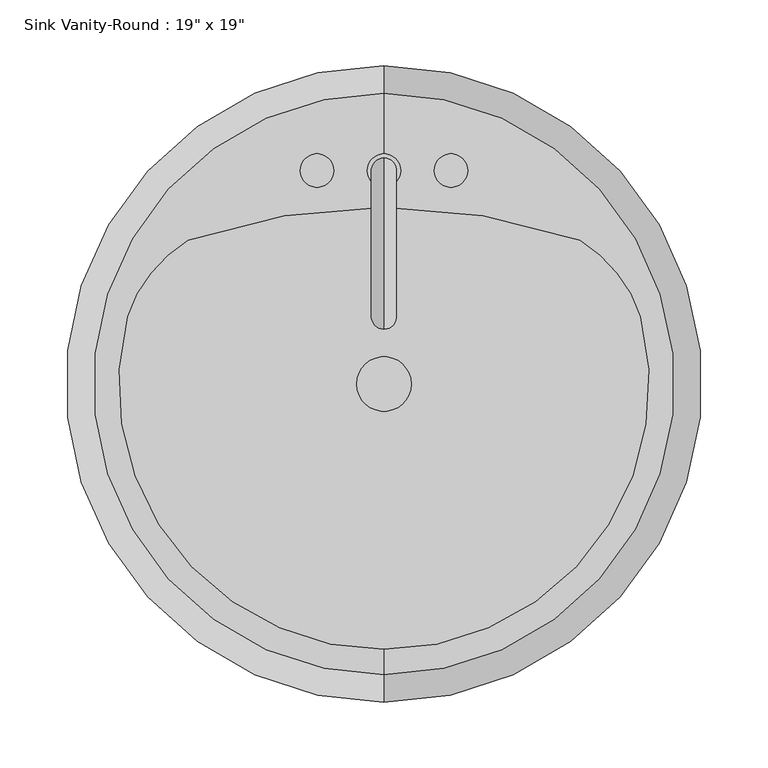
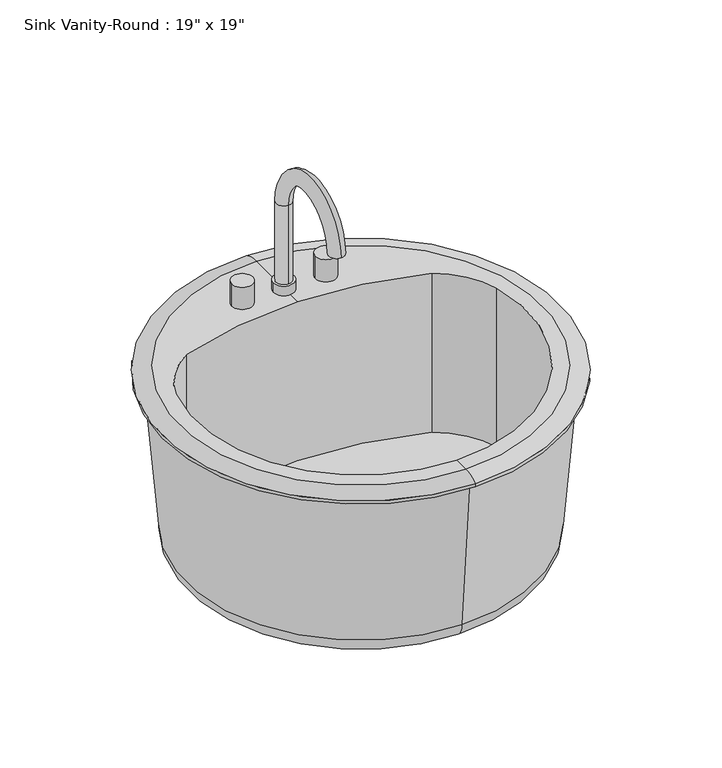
"""IFC4 building model written with IfcOpenShell, lengths in millimetres: flow terminal geometry."""

from ifc_helpers import new_model, si_unit, point, frame, frame_2d, origin, place, context, project, spatial, polyline, circle_curve, ellipse_curve, trimmed, segment, composite_curve, outline, extrude, source, transform, mapped, element, save
from ifc_brep_helpers import plane_surface, cylinder_surface, revolved_surface, advanced_brep


def flow_terminal_5184717d(model_context):
    return source(origin(), model_context, "Body", "SolidModel", [
        advanced_brep(
        [(96.6517406, 237.5677185, 796.925), (96.6517406, 256.6177185, 796.925), (96.6517406, 237.5677185, 909.6375), (96.6517406, 256.6177185, 909.6375), (96.6517406, 145.7775038, 909.6375), (96.6517406, 126.7275038, 909.6375)],
        [
            (0, 1, circle_curve(frame((96.6517406, 247.0927185, 796.925), z_axis=(0.0, 0.0, -1.0), x_axis=(0.0, 1.0, 0.0)), 9.525)),
            (1, 0, circle_curve(frame((96.6517406, 247.0927185, 796.925), z_axis=(0.0, 0.0, -1.0), x_axis=(0.0, 1.0, 0.0)), 9.525)),
            (0, 2),
            (2, 3, circle_curve(frame((96.6517406, 247.0927185, 909.6375), z_axis=(0.0, 0.0, -1.0), x_axis=(0.0, 1.0, 0.0)), 9.525)),
            (3, 1),
            (3, 2, circle_curve(frame((96.6517406, 247.0927185, 909.6375), z_axis=(0.0, 0.0, -1.0), x_axis=(0.0, 1.0, 0.0)), 9.525)),
            (4, 5, circle_curve(frame((96.6517406, 136.2525038, 909.6375), z_axis=(0.0, 0.0, -1.0), x_axis=(0.0, -1.0, 0.0)), 9.525)),
            (5, 4, circle_curve(frame((96.6517406, 136.2525038, 909.6375), z_axis=(0.0, 0.0, -1.0), x_axis=(0.0, -1.0, 0.0)), 9.525)),
            (5, 3, circle_curve(frame((96.6517406, 191.6726112, 909.6375), z_axis=(-1.0, 0.0, 0.0), x_axis=(0.0, 1.0, 0.0)), 64.9451073)),
            (2, 4, circle_curve(frame((96.6517406, 191.6726112, 909.6375), z_axis=(1.0, 0.0, 0.0), x_axis=(0.0, 1.0, 0.0)), 45.8951073)),
        ],
        [
            plane_surface(frame((96.6517406, 237.5677185, 796.925), z_axis=(0.0, 0.0, -1.0), x_axis=(1.0, 0.0, 0.0))),
            cylinder_surface(frame((96.6517406, 247.0927185, 796.925), z_axis=(0.0, 0.0, -1.0), x_axis=(0.0, 1.0, 0.0)), 9.525),
            plane_surface(frame((96.6517406, 191.6726112, 909.6375), z_axis=(0.0, 0.0, -1.0), x_axis=(0.0, -1.0, 0.0))),
            revolved_surface(trimmed(ellipse_curve(frame((96.6517406, 247.0927185, 909.6375), z_axis=(0.0, 0.0, -1.0), x_axis=(0.0, 1.0, 0.0)), 9.525, 9.525), [point((96.6517406, 237.5677185, 909.6375))], [point((96.6517406, 256.6177185, 909.6375))], True, "CARTESIAN"), (96.6517406, 191.6726112, 909.6375), (1.0, 0.0, 0.0)),
            revolved_surface(trimmed(ellipse_curve(frame((96.6517406, 247.0927185, 909.6375), z_axis=(0.0, 0.0, -1.0), x_axis=(0.0, 1.0, 0.0)), 9.525, 9.525), [point((96.6517406, 256.6177185, 909.6375))], [point((96.6517406, 237.5677185, 909.6375))], True, "CARTESIAN"), (96.6517406, 191.6726112, 909.6375), (1.0, 0.0, 0.0)),
        ],
        [
            (0, [[1, 2]]),
            (1, [[-1, 3, 4, 5]]),
            (1, [[-2, -5, 6, -3]]),
            (2, [[7, 8]]),
            (3, [[9, -4, 10, -8]]),
            (4, [[-10, -6, -9, -7]]),
        ],
    ),
        extrude(outline(composite_curve([segment(trimmed(circle_curve(frame_2d((96.6517406, 247.0927185)), 12.7), [point((83.9517406, 247.0927185))], [point((109.3517406, 247.0927185))], False, "CARTESIAN"), True, "CONTINUOUS"), segment(trimmed(circle_curve(frame_2d((96.6517406, 247.0927185)), 12.7), [point((109.3517406, 247.0927185))], [point((83.9517406, 247.0927185))], False, "CARTESIAN"), True, "CONTINUOUS")], self_intersect=False)), frame((0.0, 0.0, 796.925), z_axis=(0.0, 0.0, 1.0), x_axis=(1.0, 0.0, 0.0)), (0.0, 0.0, 1.0), 12.2352909),
        extrude(outline(composite_curve([segment(trimmed(circle_curve(frame_2d((45.8517406, 247.0927185)), 12.7), [point((33.1517406, 247.0927185))], [point((58.5517406, 247.0927185))], False, "CARTESIAN"), True, "CONTINUOUS"), segment(trimmed(circle_curve(frame_2d((45.8517406, 247.0927185)), 12.7), [point((58.5517406, 247.0927185))], [point((33.1517406, 247.0927185))], False, "CARTESIAN"), True, "CONTINUOUS")], self_intersect=False)), frame((0.0, 0.0, 796.925), z_axis=(0.0, 0.0, 1.0), x_axis=(1.0, 0.0, 0.0)), (0.0, 0.0, 1.0), 28.575),
        extrude(outline(composite_curve([segment(trimmed(circle_curve(frame_2d((147.4517406, 247.0927185)), 12.7), [point((134.7517406, 247.0927185))], [point((160.1517406, 247.0927185))], False, "CARTESIAN"), True, "CONTINUOUS"), segment(trimmed(circle_curve(frame_2d((147.4517406, 247.0927185)), 12.7), [point((160.1517406, 247.0927185))], [point((134.7517406, 247.0927185))], False, "CARTESIAN"), True, "CONTINUOUS")], self_intersect=False)), frame((0.0, 0.0, 796.925), z_axis=(0.0, 0.0, 1.0), x_axis=(1.0, 0.0, 0.0)), (0.0, 0.0, 1.0), 28.575),
        extrude(outline(composite_curve([segment(trimmed(circle_curve(frame_2d((96.6517406, 85.1677185)), 20.6375), [point((76.0142406, 85.1677185))], [point((117.2892406, 85.1677185))], False, "CARTESIAN"), True, "CONTINUOUS"), segment(trimmed(circle_curve(frame_2d((96.6517406, 85.1677185)), 20.6375), [point((117.2892406, 85.1677185))], [point((76.0142406, 85.1677185))], False, "CARTESIAN"), True, "CONTINUOUS")], self_intersect=False)), frame((0.0, 0.0, 571.5), z_axis=(0.0, 0.0, 1.0), x_axis=(1.0, 0.0, 0.0)), (0.0, 0.0, 1.0), 21.1842611),
        advanced_brep(
        [(96.6517406, -135.3870093, 796.925), (96.6517406, 305.7224463, 796.925), (96.6517406, 326.4677185, 791.36875), (96.6517406, -156.1322815, 791.36875), (96.6517406, -116.2405705, 796.925), (-98.1703414, 136.2525038, 796.925), (-52.1534933, 194.0861398, 796.925), (96.6517406, 219.2662048, 796.925), (245.4569744, 194.0861398, 796.925), (291.4738225, 136.2525038, 796.925), (96.6517406, -107.1264028, 571.5), (96.6517406, 277.4618398, 571.5), (96.6517406, 85.1677185, 571.5), (96.6517406, -127.6827361, 592.6842611), (96.6517406, 298.0181731, 592.6842611), (96.6517406, -144.2260315, 787.4), (96.6517406, 314.5614685, 787.4), (96.6517406, -156.1322815, 787.4), (96.6517406, 326.4677185, 787.4), (245.4569744, 194.0861398, 592.6842611), (-52.1534933, 194.0861398, 592.6842611), (-98.1703414, 136.2525038, 592.6842611), (291.4738225, 136.2525038, 592.6842611)],
        [
            (0, 1, circle_curve(frame((96.6517406, 85.1677185, 796.925), z_axis=(0.0, 0.0, -1.0), x_axis=(0.0, 1.0, 0.0)), 220.5547278)),
            (1, 2, circle_curve(frame((96.6517406, 309.4374616, 769.289434), z_axis=(-1.0, 0.0, 0.0), x_axis=(0.0, 1.0, 0.0)), 27.8841505)),
            (2, 3, circle_curve(frame((96.6517406, 85.1677185, 791.36875), z_axis=(0.0, 0.0, 1.0), x_axis=(0.0, 1.0, 0.0)), 241.3)),
            (3, 0, circle_curve(frame((96.6517406, -139.1020246, 769.289434), z_axis=(-1.0, 0.0, 0.0), x_axis=(0.0, -1.0, 0.0)), 27.8841505)),
            (1, 0, circle_curve(frame((96.6517406, 85.1677185, 796.925), z_axis=(0.0, 0.0, -1.0), x_axis=(0.0, 1.0, 0.0)), 220.5547278)),
            (3, 2, circle_curve(frame((96.6517406, 85.1677185, 791.36875), z_axis=(0.0, 0.0, 1.0), x_axis=(0.0, 1.0, 0.0)), 241.3)),
            (0, 4),
            (4, 5, circle_curve(frame((96.6517406, 85.1677185, 796.925), z_axis=(0.0, 0.0, -1.0), x_axis=(1.0, 0.0, 0.0)), 201.408289)),
            (5, 6, circle_curve(frame((1.3689689, 104.2755165, 796.925), z_axis=(0.0, 0.0, -1.0), x_axis=(1.0, 0.0, 0.0)), 104.5495194)),
            (6, 7, circle_curve(frame((96.6517406, -233.0168462, 796.925), z_axis=(0.0, 0.0, -1.0), x_axis=(1.0, 0.0, 0.0)), 452.283051)),
            (7, 1),
            (7, 8, circle_curve(frame((96.6517406, -233.0168462, 796.925), z_axis=(0.0, 0.0, -1.0), x_axis=(1.0, 0.0, 0.0)), 452.283051)),
            (8, 9, circle_curve(frame((191.9345122, 104.2755165, 796.925), z_axis=(0.0, 0.0, -1.0), x_axis=(1.0, 0.0, 0.0)), 104.5495194)),
            (9, 4, circle_curve(frame((96.6517406, 85.1677185, 796.925), z_axis=(0.0, 0.0, -1.0), x_axis=(1.0, 0.0, 0.0)), 201.408289)),
            (10, 11, circle_curve(frame((96.6517406, 85.1677185, 571.5), z_axis=(0.0, 0.0, -1.0), x_axis=(0.0, 1.0, 0.0)), 192.2941213)),
            (11, 12),
            (12, 10),
            (11, 10, circle_curve(frame((96.6517406, 85.1677185, 571.5), z_axis=(0.0, 0.0, -1.0), x_axis=(0.0, 1.0, 0.0)), 192.2941213)),
            (10, 13, circle_curve(frame((96.6517406, -107.1264028, 592.0656396), z_axis=(-1.0, 0.0, 0.0), x_axis=(0.0, -1.0, 0.0)), 20.5656396)),
            (13, 14, circle_curve(frame((96.6517406, 85.1677185, 592.6842611), z_axis=(0.0, 0.0, -1.0), x_axis=(0.0, 1.0, 0.0)), 212.8504546)),
            (14, 11, circle_curve(frame((96.6517406, 277.4618398, 592.0656396), z_axis=(-1.0, 0.0, 0.0), x_axis=(0.0, 1.0, 0.0)), 20.5656396)),
            (14, 13, circle_curve(frame((96.6517406, 85.1677185, 592.6842611), z_axis=(0.0, 0.0, -1.0), x_axis=(0.0, 1.0, 0.0)), 212.8504546)),
            (13, 15),
            (15, 16, circle_curve(frame((96.6517406, 85.1677185, 787.4), z_axis=(0.0, 0.0, -1.0), x_axis=(0.0, 1.0, 0.0)), 229.39375)),
            (16, 14),
            (16, 15, circle_curve(frame((96.6517406, 85.1677185, 787.4), z_axis=(0.0, 0.0, -1.0), x_axis=(0.0, 1.0, 0.0)), 229.39375)),
            (15, 17),
            (17, 18, circle_curve(frame((96.6517406, 85.1677185, 787.4), z_axis=(0.0, 0.0, -1.0), x_axis=(0.0, 1.0, 0.0)), 241.3)),
            (18, 16),
            (18, 17, circle_curve(frame((96.6517406, 85.1677185, 787.4), z_axis=(0.0, 0.0, -1.0), x_axis=(0.0, 1.0, 0.0)), 241.3)),
            (2, 18),
            (17, 3),
            (19, 20, circle_curve(frame((96.6517406, -233.0168462, 592.6842611), z_axis=(0.0, 0.0, 1.0), x_axis=(1.0, 0.0, 0.0)), 452.283051)),
            (20, 21, circle_curve(frame((1.3689689, 104.2755165, 592.6842611), z_axis=(0.0, 0.0, 1.0), x_axis=(1.0, 0.0, 0.0)), 104.5495194)),
            (21, 22, circle_curve(frame((96.6517406, 85.1677185, 592.6842611), z_axis=(0.0, 0.0, 1.0), x_axis=(1.0, 0.0, 0.0)), 201.408289)),
            (22, 19, circle_curve(frame((191.9345122, 104.2755165, 592.6842611), z_axis=(0.0, 0.0, 1.0), x_axis=(1.0, 0.0, 0.0)), 104.5495194)),
            (19, 8),
            (6, 20),
            (5, 21),
            (9, 22),
        ],
        [
            revolved_surface(trimmed(ellipse_curve(frame((96.6517406, 309.4374616, 769.289434), z_axis=(1.0, 0.0, 0.0), x_axis=(0.0, 1.0, 0.0)), 27.8841505, 27.8841505), [point((96.6517406, 326.4677185, 791.36875))], [point((96.6517406, 305.7224463, 796.925))], True, "CARTESIAN"), (96.6517406, 85.1677185, 796.925), (0.0, 0.0, 1.0)),
            plane_surface(frame((96.6517406, 85.1677185, 796.925), z_axis=(0.0, 0.0, 1.0), x_axis=(0.0, 1.0, 0.0))),
            plane_surface(frame((96.6517406, 85.1677185, 571.5), z_axis=(0.0, 0.0, -1.0), x_axis=(0.0, 1.0, 0.0))),
            revolved_surface(trimmed(ellipse_curve(frame((96.6517406, 277.4618398, 592.0656396), z_axis=(1.0, 0.0, 0.0), x_axis=(0.0, 1.0, 0.0)), 20.5656396, 20.5656396), [point((96.6517406, 277.4618398, 571.5))], [point((96.6517406, 298.0181731, 592.6842611))], True, "CARTESIAN"), (96.6517406, 85.1677185, 796.925), (0.0, 0.0, 1.0)),
            revolved_surface(polyline([(96.6517406, 298.0181731, 592.6842611), (96.6517406, 314.5614685, 787.4)]), (96.6517406, 85.1677185, 796.925), (0.0, 0.0, 1.0)),
            plane_surface(frame((96.6517406, 85.1677185, 787.4), z_axis=(0.0, 0.0, -1.0), x_axis=(0.0, 1.0, 0.0))),
            cylinder_surface(frame((96.6517406, 85.1677185, 796.925), z_axis=(0.0, 0.0, 1.0), x_axis=(0.0, 1.0, 0.0)), 241.3),
            plane_surface(frame((548.9347916, -233.0168462, 592.6842611), z_axis=(0.0, 0.0, 1.0), x_axis=(0.0, -1.0, 0.0))),
            revolved_surface(polyline([(548.9347916, -233.0168462, 796.925), (548.9347916, -233.0168462, 592.6842611)]), (96.6517406, -233.0168462, 592.6842611), (0.0, 0.0, 1.0)),
            revolved_surface(polyline([(105.91848829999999, 104.2755165, 796.925), (105.91848829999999, 104.2755165, 592.6842611)]), (1.3689689, 104.2755165, 592.6842611), (0.0, 0.0, 1.0)),
            revolved_surface(polyline([(298.0600296, 85.1677185, 796.925), (298.0600296, 85.1677185, 592.6842611)]), (96.6517406, 85.1677185, 592.6842611), (0.0, 0.0, 1.0)),
            revolved_surface(polyline([(296.4840316, 104.2755165, 796.925), (296.4840316, 104.2755165, 592.6842611)]), (191.9345122, 104.2755165, 592.6842611), (0.0, 0.0, 1.0)),
        ],
        [
            (0, [[1, 2, 3, 4]]),
            (0, [[-2, 5, -4, 6]]),
            (1, [[-1, 7, 8, 9, 10, 11]]),
            (1, [[-5, -11, 12, 13, 14, -7]]),
            (2, [[15, 16, 17]]),
            (2, [[-16, 18, -17]]),
            (3, [[-15, 19, 20, 21]]),
            (3, [[-18, -21, 22, -19]]),
            (4, [[-20, 23, 24, 25]]),
            (4, [[-22, -25, 26, -23]]),
            (5, [[-24, 27, 28, 29]]),
            (5, [[-26, -29, 30, -27]]),
            (6, [[-3, 31, -28, 32]]),
            (6, [[-6, -32, -30, -31]]),
            (7, [[33, 34, 35, 36]]),
            (8, [[-33, 37, -12, -10, 38]]),
            (9, [[-34, -38, -9, 39]]),
            (10, [[-35, -39, -8, -14, 40]]),
            (11, [[-36, -40, -13, -37]]),
        ],
    ),
    ])


if __name__ == "__main__":
    model = new_model("IFC4")
    model_context = context("Model", 3, world=origin())
    ifc_project = project(units=[si_unit("LENGTHUNIT", "METRE", prefix="MILLI")], contexts=[model_context])
    site = spatial("IfcSite", under=ifc_project)
    building = spatial("IfcBuilding", under=site)
    placement = place(None, origin())
    flow_terminal_shape = flow_terminal_5184717d(model_context)
    element("IfcFlowTerminal", 1, ObjectType="Sink Vanity-Round : 19\" x 19\"", at=placement, inside=building, context=model_context, shape_type="MappedRepresentation", body=[
        mapped(flow_terminal_shape, transform((0.0, 0.0, 0.0), x_axis=(1.0, 0.0, 0.0), y_axis=(0.0, 1.0, 0.0), z_axis=(0.0, 0.0, 1.0))),
    ])
    save(model, "model.ifc")
